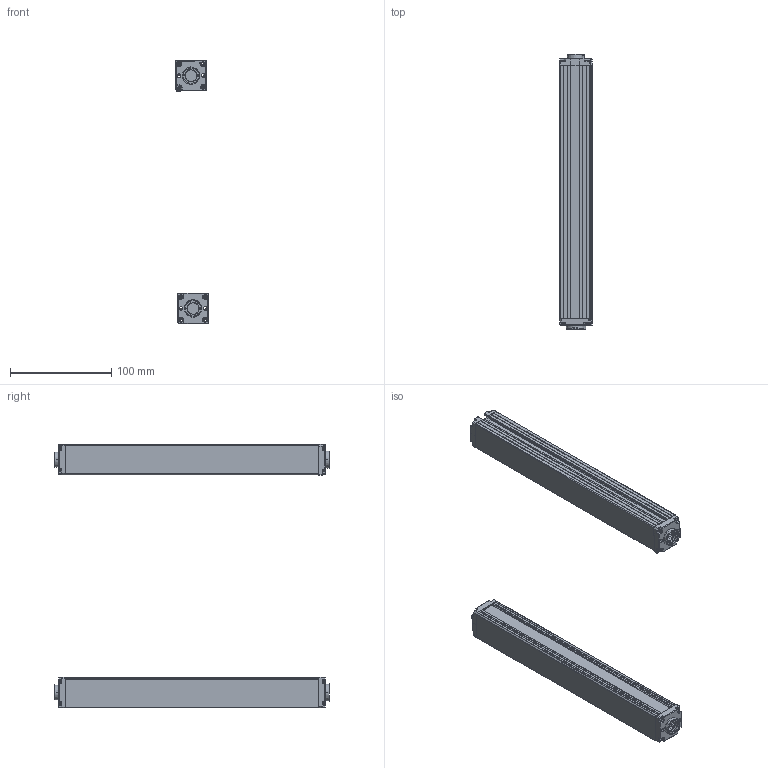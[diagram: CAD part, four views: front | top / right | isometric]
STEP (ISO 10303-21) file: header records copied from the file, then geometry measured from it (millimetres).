
FILE_DESCRIPTION (( 'STEP AP203' ), '1' );
FILE_NAME ('ZDA1220-250.STEP', '2022-08-30T07:27:02', ( 'Windows 蚚誧' ), ( 'Organization' ), 'SwSTEP 2.0', 'SolidWorks 2020', '' );
FILE_SCHEMA (( 'CONFIG_CONTROL_DESIGN' ));
Length unit declared in the file: millimetre
Products named in the file (5): ZDA1220-250; 錨璃1; 錨璃8; 錨璃8 - 萵掛 (2); 錨璃10
Assembly tree (8 placements, depth 2):
  ZDA1220-250
    錨璃1  x2
    錨璃8  x2
    錨璃8 - 萵掛 (2)  x2
    錨璃10  x2
Bounding box: 32.36 x 271.4 x 260.35 mm (x, y, z)
Volume: 167514.9 mm3; surface area: 179768.8 mm2
Topology: 8 solids, 8 shells, 1032 faces, 2690 edges, 1668 vertices
Faces by surface type: plane 464, cylinder 310, cone 120, bspline 58, torus 48, sphere 32
Entity records: 17901 total; most frequent: CARTESIAN_POINT 4731, ORIENTED_EDGE 2666, DIRECTION 2616, EDGE_CURVE 1333, AXIS2_PLACEMENT_3D 894, VERTEX_POINT 834, VECTOR 828, LINE 828
